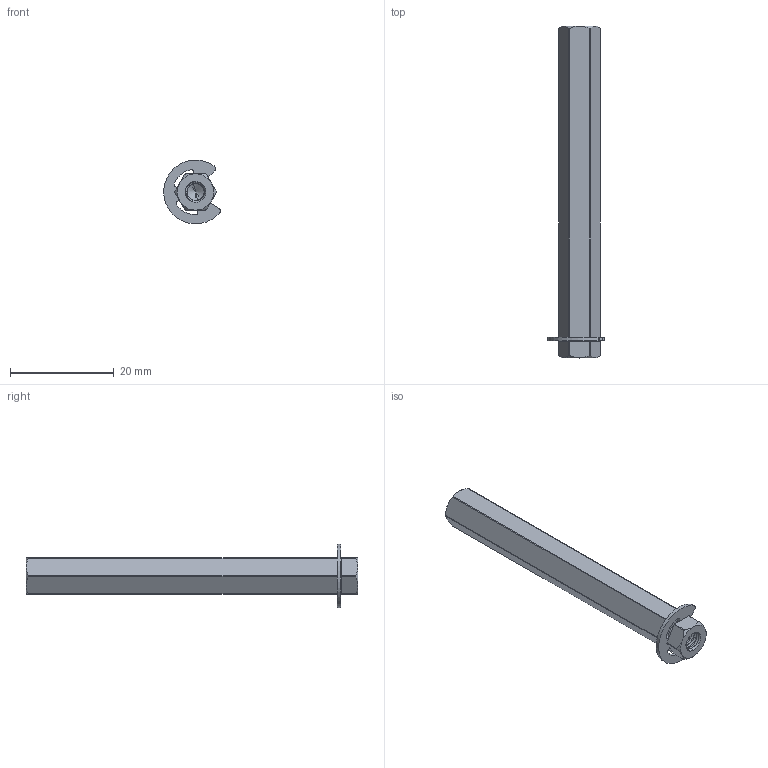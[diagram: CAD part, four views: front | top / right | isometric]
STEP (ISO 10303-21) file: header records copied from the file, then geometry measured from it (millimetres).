
FILE_DESCRIPTION (( 'STEP AP203' ), '1' );
FILE_NAME ('2106-4008-0640 assembly.STEP', '2021-05-10T21:54:43', ( '' ), ( '' ), 'SwSTEP 2.0', 'SolidWorks 2016', '' );
FILE_SCHEMA (( 'CONFIG_CONTROL_DESIGN' ));
Length unit declared in the file: millimetre
Products named in the file (3): 2106 Series 8mm REX e-clip; 2106-4008-0640 assembly; 2106-4008-0640
Assembly tree (2 placements, depth 2):
  2106-4008-0640 assembly
    2106-4008-0640
    2106 Series 8mm REX e-clip
Bounding box: 10.91 x 64 x 12.29 mm (x, y, z)
Volume: 2457.4 mm3; surface area: 2268.8 mm2
Topology: 2 solids, 2 shells, 220 faces, 624 edges, 408 vertices
Faces by surface type: cylinder 168, plane 26, cone 22, bspline 4
Entity records: 13217 total; most frequent: CARTESIAN_POINT 8047, ORIENTED_EDGE 1240, DIRECTION 846, EDGE_CURVE 620, VERTEX_POINT 408, AXIS2_PLACEMENT_3D 315, EDGE_LOOP 224, FACE_OUTER_BOUND 220
